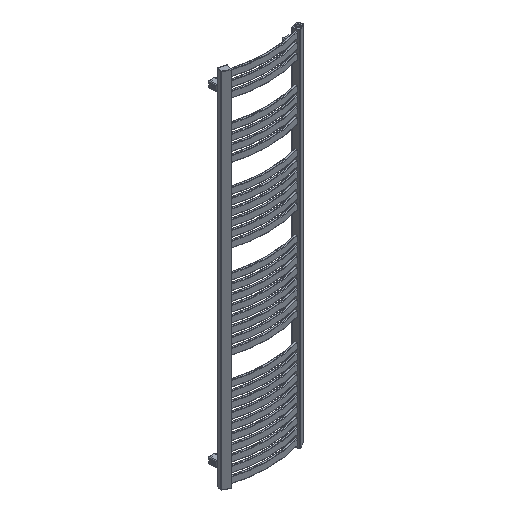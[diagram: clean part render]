
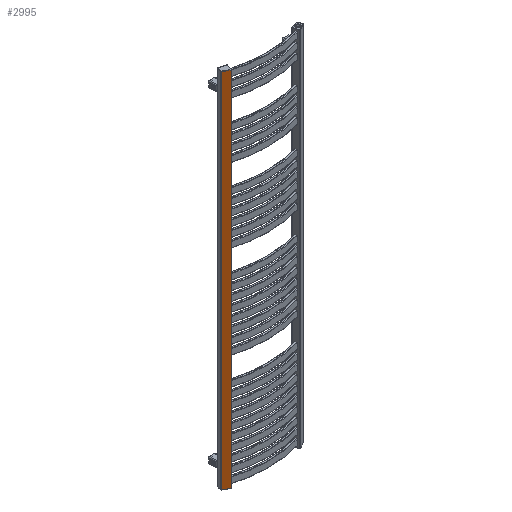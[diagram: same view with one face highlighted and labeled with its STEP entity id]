
A CAD part, isometric view. The second image highlights one B-rep face of the part: STEP entity #2995.
In plain terms, the highlighted planar face has unit normal (-0.515, -0.857, 0).
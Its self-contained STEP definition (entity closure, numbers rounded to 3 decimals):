
#249=CARTESIAN_POINT('',(-198.242,-5.701,1.5));
#250=VERTEX_POINT('',#249);
#298=CARTESIAN_POINT('',(-168.958,-23.297,1.5));
#299=VERTEX_POINT('',#298);
#307=CARTESIAN_POINT('',(-168.958,-23.297,1.5));
#308=DIRECTION('',(-0.857,0.515,0.0));
#309=VECTOR('',#308,34.164);
#310=LINE('',#307,#309);
#311=EDGE_CURVE('',#299,#250,#310,.T.);
#524=CARTESIAN_POINT('',(-198.242,-5.701,1758.5));
#525=VERTEX_POINT('',#524);
#526=CARTESIAN_POINT('',(-198.242,-5.701,1.5));
#527=DIRECTION('',(0.0,0.0,1.0));
#528=VECTOR('',#527,1757.0);
#529=LINE('',#526,#528);
#530=EDGE_CURVE('',#250,#525,#529,.T.);
#582=CARTESIAN_POINT('',(-168.958,-23.297,1758.5));
#583=VERTEX_POINT('',#582);
#600=CARTESIAN_POINT('',(-198.242,-5.701,1758.5));
#601=DIRECTION('',(0.857,-0.515,0.0));
#602=VECTOR('',#601,34.164);
#603=LINE('',#600,#602);
#604=EDGE_CURVE('',#525,#583,#603,.T.);
#2975=CARTESIAN_POINT('',(-168.958,-23.297,1758.5));
#2976=DIRECTION('',(0.0,0.0,-1.0));
#2977=VECTOR('',#2976,1757.);
#2978=LINE('',#2975,#2977);
#2979=EDGE_CURVE('',#583,#299,#2978,.T.);
#2984=CARTESIAN_POINT('',(-165.048,-25.646,0.0));
#2985=DIRECTION('',(-0.515,-0.857,0.0));
#2986=DIRECTION('',(0.0,0.0,1.0));
#2987=AXIS2_PLACEMENT_3D('',#2984,#2985,#2986);
#2988=PLANE('',#2987);
#2989=ORIENTED_EDGE('',*,*,#311,.F.);
#2990=ORIENTED_EDGE('',*,*,#2979,.F.);
#2991=ORIENTED_EDGE('',*,*,#604,.F.);
#2992=ORIENTED_EDGE('',*,*,#530,.F.);
#2993=EDGE_LOOP('',(#2989,#2990,#2991,#2992));
#2994=FACE_OUTER_BOUND('',#2993,.T.);
#2995=ADVANCED_FACE('',(#2994),#2988,.T.);
